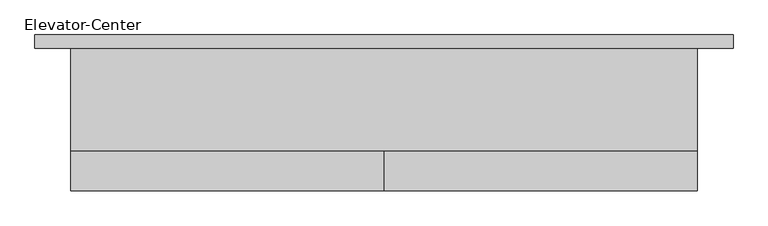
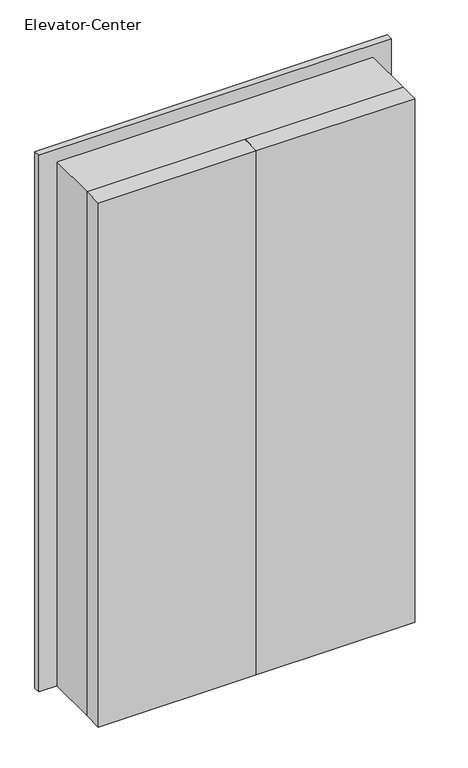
"""IFC4 building model written with IfcOpenShell, lengths in millimetres: proxy geometry, Elevator-Center : 1,1 x 2,1 båreheis."""

from ifc_helpers import new_model, si_unit, frame, origin, origin_with_axes, place, context, project, spatial, polyline, outline, extrude, source, transform, mapped, element, save


def elevator_center_be06e061(model_context):
    return source(origin(), model_context, "Body", "SweptSolid", [
        extrude(outline(polyline([(507.2143557, -100.0), (507.2143557, -176.2), (-99.1356443, -176.2), (-99.1356443, -100.0), (507.2143557, -100.0)])), origin_with_axes(), (0.0, 0.0, 1.0), 2125.4),
        extrude(outline(polyline([(-99.1356443, -100.0), (-99.1356443, -176.2), (-705.4856443, -176.2), (-705.4856443, -100.0), (-99.1356443, -100.0)])), origin_with_axes(), (0.0, 0.0, 1.0), 2125.4),
        extrude(outline(polyline([(0.0, -775.3356443), (0.0, -699.1356443), (2100.0, -699.1356443), (2100.0, 500.8643557), (0.0, 500.8643557), (0.0, 577.0643557), (2176.2, 577.0643557), (2176.2, -775.3356443), (0.0, -775.3356443)])), frame((0.0, 100.0, 0.0), z_axis=(0.0, 1.0, 0.0), x_axis=(0.0, 0.0, 1.0)), (0.0, 0.0, 1.0), 25.4),
        extrude(outline(polyline([(0.0, -705.4856443), (0.0, -699.1356443), (2100.0, -699.1356443), (2100.0, 500.8643557), (0.0, 500.8643557), (0.0, 507.2143557), (2125.4, 507.2143557), (2125.4, -705.4856443), (0.0, -705.4856443)])), frame((0.0, -100.0, 0.0), z_axis=(0.0, 1.0, 0.0), x_axis=(0.0, 0.0, 1.0)), (0.0, 0.0, 1.0), 200.0),
    ])


if __name__ == "__main__":
    model = new_model("IFC4")
    model_context = context("Model", 3, world=origin())
    ifc_project = project(units=[si_unit("LENGTHUNIT", "METRE", prefix="MILLI")], contexts=[model_context])
    site = spatial("IfcSite", under=ifc_project)
    building = spatial("IfcBuilding", under=site)
    placement = place(None, origin())
    elevator_center_shape = elevator_center_be06e061(model_context)
    element("IfcBuildingElementProxy", 1, Name="Elevator-Center : 1,1 x 2,1 båreheis", ObjectType="Elevator-Center : 1,1 x 2,1 båreheis", at=placement, inside=building, context=model_context, shape_type="MappedRepresentation", body=[
        mapped(elevator_center_shape, transform((0.0, 0.0, 0.0), x_axis=(1.0, 0.0, 0.0), y_axis=(0.0, 1.0, 0.0), z_axis=(0.0, 0.0, 1.0))),
    ])
    save(model, "model.ifc")
